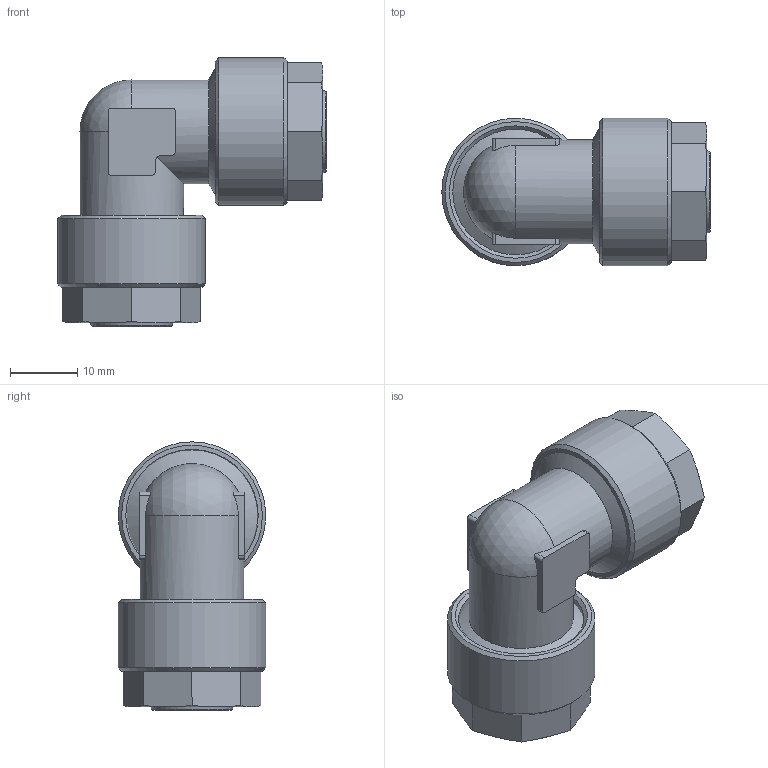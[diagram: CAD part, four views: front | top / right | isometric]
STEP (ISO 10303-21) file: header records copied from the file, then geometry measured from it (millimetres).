
FILE_DESCRIPTION(/* description */ (''),/* implementation_level */ '2;1');
FILE_NAME(/* name */ '11308_306_1512,5_10.08.17',/* time_stamp */ '2017-08-10T11:34:48+02:00',/* author */ (''),/* organization */ (''),/* preprocessor_version */ 'ST-DEVELOPER v16.5',/* originating_system */ 'HiCAD 2016 2102.2 Build 618',/* authorisation */ '');
FILE_SCHEMA (('AUTOMOTIVE_DESIGN { 1 0 10303 214 1 1 1 1 }'));
Length unit declared in the file: millimetre
Products named in the file (4): Root; R11308; 17009
Assembly tree (3 placements, depth 2):
  Root
    R11308
    17009
    17009
Bounding box: 40 x 22 x 40 mm (x, y, z)
Volume: 9835.4 mm3; surface area: 9878 mm2
Topology: 3 solids, 3 shells, 115 faces, 278 edges, 177 vertices
Faces by surface type: plane 42, cone 38, cylinder 30, torus 4, sphere 1
Full cylindrical faces by diameter (mm): 11 x2, 13.1 x2, 15 x2, 15.5 x2, 18.733 x2, 20 x2, 22 x2
Entity records: 7317 total; most frequent: CARTESIAN_POINT 2486, DIRECTION 570, PRESENTATION_STYLE_ASSIGNMENT 457, COLOUR_RGB 455, DRAUGHTING_PRE_DEFINED_CURVE_FONT 454, CURVE_STYLE 454, OVER_RIDING_STYLED_ITEM 454, ORIENTED_EDGE 454
